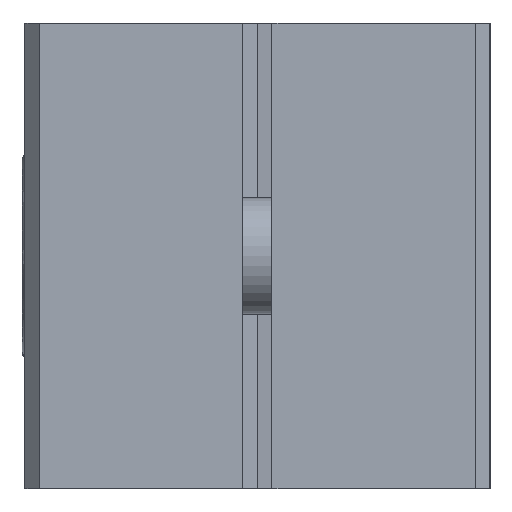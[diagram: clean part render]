
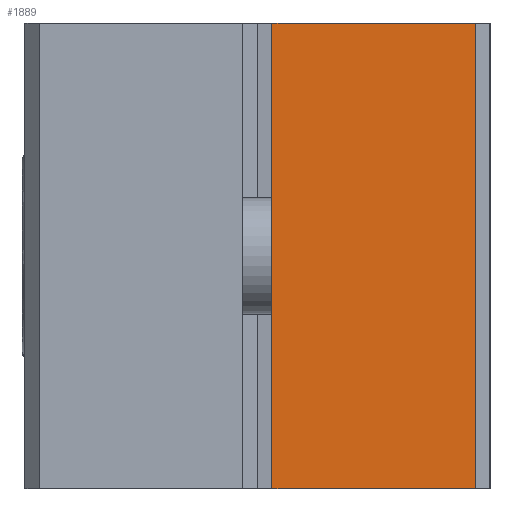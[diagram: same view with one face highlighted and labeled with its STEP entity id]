
A CAD part, left-side view. The second image highlights one B-rep face of the part: STEP entity #1889.
In plain terms, the highlighted planar face has unit normal (-1, 0, 0).
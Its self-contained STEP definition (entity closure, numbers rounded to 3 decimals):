
#178 = AXIS2_PLACEMENT_3D ( 'NONE', #6005, #18120, #4174 ) ;
#1208 = DIRECTION ( 'NONE',  ( 0., 1., 0. ) ) ;
#1851 = VECTOR ( 'NONE', #21763, 1000. ) ;
#1889 = ADVANCED_FACE ( 'NONE', ( #20221 ), #9551, .F. ) ;
#2046 = CARTESIAN_POINT ( 'NONE',  ( -151.092, 15.391, 60.568 ) ) ;
#3008 = CARTESIAN_POINT ( 'NONE',  ( -151.092, 22.891, 44.568 ) ) ;
#3292 = EDGE_CURVE ( 'NONE', #13787, #17338, #4075, .T. ) ;
#4075 = LINE ( 'NONE', #3008, #8147 ) ;
#4174 = DIRECTION ( 'NONE',  ( 0., 0., -1. ) ) ;
#4673 = EDGE_CURVE ( 'NONE', #13787, #14225, #21368, .T. ) ;
#5279 = LINE ( 'NONE', #11589, #5830 ) ;
#5830 = VECTOR ( 'NONE', #1208, 1000. ) ;
#6005 = CARTESIAN_POINT ( 'NONE',  ( -151.092, 15.391, 60.568 ) ) ;
#8071 = ORIENTED_EDGE ( 'NONE', *, *, #4673, .T. ) ;
#8147 = VECTOR ( 'NONE', #11476, 1000. ) ;
#8690 = EDGE_CURVE ( 'NONE', #14225, #9425, #5279, .T. ) ;
#9425 = VERTEX_POINT ( 'NONE', #21307 ) ;
#9551 = PLANE ( 'NONE',  #178 ) ;
#11476 = DIRECTION ( 'NONE',  ( 0., 1., 0. ) ) ;
#11589 = CARTESIAN_POINT ( 'NONE',  ( -151.092, 22.891, 60.568 ) ) ;
#11840 = DIRECTION ( 'NONE',  ( 0., 0., 1. ) ) ;
#12413 = CARTESIAN_POINT ( 'NONE',  ( -151.092, 15.391, 44.568 ) ) ;
#13225 = ORIENTED_EDGE ( 'NONE', *, *, #8690, .T. ) ;
#13787 = VERTEX_POINT ( 'NONE', #12413 ) ;
#14225 = VERTEX_POINT ( 'NONE', #2046 ) ;
#15393 = LINE ( 'NONE', #16281, #1851 ) ;
#16281 = CARTESIAN_POINT ( 'NONE',  ( -151.092, 22.391, 52.568 ) ) ;
#16828 = EDGE_CURVE ( 'NONE', #9425, #17338, #15393, .T. ) ;
#17338 = VERTEX_POINT ( 'NONE', #21062 ) ;
#18120 = DIRECTION ( 'NONE',  ( 1., 0., 0. ) ) ;
#19502 = EDGE_LOOP ( 'NONE', ( #13225, #20602, #21047, #8071 ) ) ;
#19719 = VECTOR ( 'NONE', #11840, 1000. ) ;
#20221 = FACE_OUTER_BOUND ( 'NONE', #19502, .T. ) ;
#20602 = ORIENTED_EDGE ( 'NONE', *, *, #16828, .T. ) ;
#21047 = ORIENTED_EDGE ( 'NONE', *, *, #3292, .F. ) ;
#21062 = CARTESIAN_POINT ( 'NONE',  ( -151.092, 22.391, 44.568 ) ) ;
#21307 = CARTESIAN_POINT ( 'NONE',  ( -151.092, 22.391, 60.568 ) ) ;
#21368 = LINE ( 'NONE', #22159, #19719 ) ;
#21763 = DIRECTION ( 'NONE',  ( 0., 0., -1. ) ) ;
#22159 = CARTESIAN_POINT ( 'NONE',  ( -151.092, 15.391, 52.568 ) ) ;
